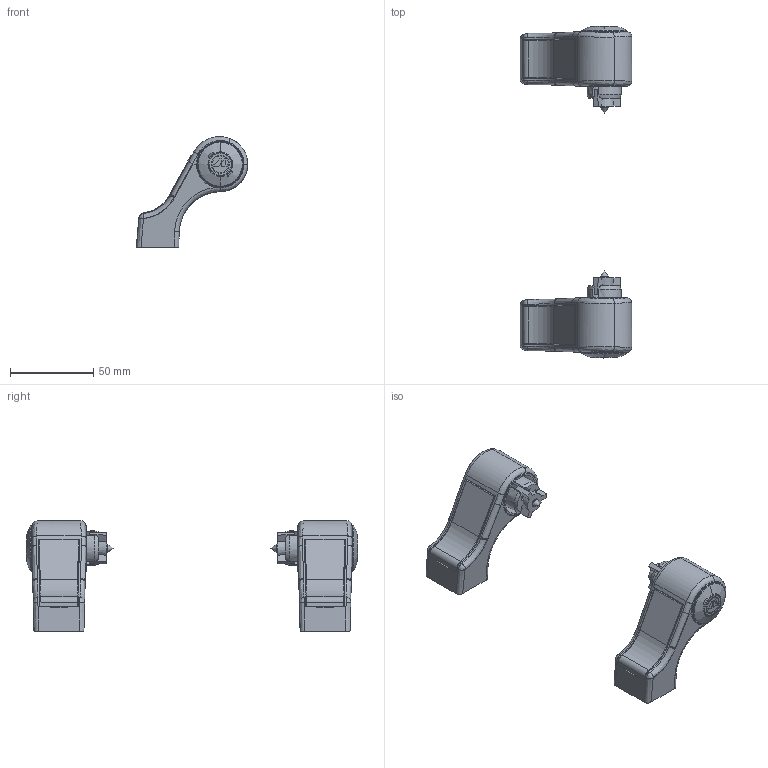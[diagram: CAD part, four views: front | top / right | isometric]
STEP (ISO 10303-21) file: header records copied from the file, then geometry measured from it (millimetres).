
FILE_DESCRIPTION (( 'STEP AP214' ), '1' );
FILE_NAME ('F31111AB.step', '2024-12-03T16:17:06', ( '' ), ( '' ), 'SwSTEP 2.0', 'SolidWorks 2023', '' );
FILE_SCHEMA (( 'AUTOMOTIVE_DESIGN' ));
Products named in the file (1): F31111AB
Bounding box: 67 x 199.6 x 66.57 mm (x, y, z)
Surface area: 37156.2 mm2 (no closed solid volume)
Topology: 0 solids, 18 shells, 615 faces, 2209 edges, 1552 vertices
Faces by surface type: bspline 230, plane 197, cylinder 164, cone 24
Full cylindrical faces by diameter (mm): 4.8 x2, 7 x2, 8.5 x2, 10 x2, 11 x2, 27 x2
Entity records: 52007 total; most frequent: CARTESIAN_POINT 36963, ORIENTED_EDGE 3503, EDGE_CURVE 2159, DIRECTION 2101, VERTEX_POINT 1538, B_SPLINE_CURVE_WITH_KNOTS 846, VECTOR 817, LINE 817
